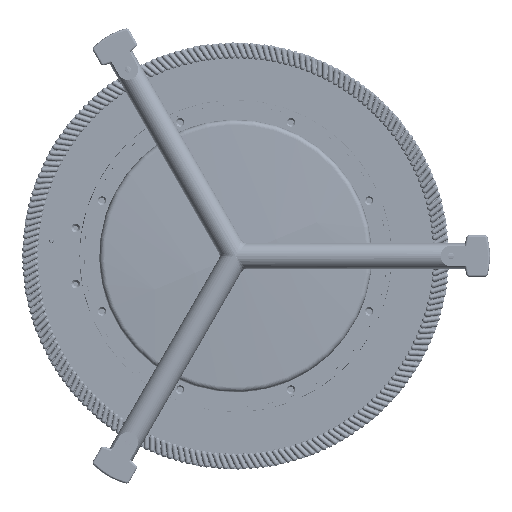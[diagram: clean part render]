
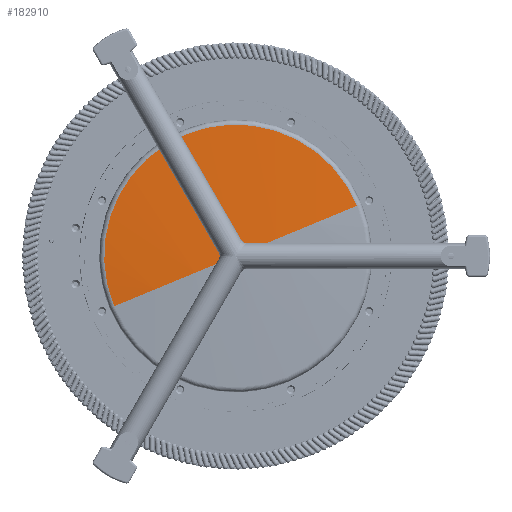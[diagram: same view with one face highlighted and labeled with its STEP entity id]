
A CAD part, front view. The second image highlights one B-rep face of the part: STEP entity #182910.
In plain terms, the highlighted spherical face has radius 1716.79 mm.
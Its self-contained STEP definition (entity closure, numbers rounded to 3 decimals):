
#5697 = VERTEX_POINT ( 'NONE', #24219 ) ;
#24219 = CARTESIAN_POINT ( 'NONE',  ( 0., 53.948, 126.299 ) ) ;
#37618 = FACE_OUTER_BOUND ( 'NONE', #248758, .T. ) ;
#39838 = DIRECTION ( 'NONE',  ( -1., 0., 0. ) ) ;
#55117 = AXIS2_PLACEMENT_3D ( 'NONE', #84285, #39838, #130185 ) ;
#56137 = CARTESIAN_POINT ( 'NONE',  ( 0., 53.948, 0. ) ) ;
#59801 = CIRCLE ( 'NONE', #55117, 1716.79 ) ;
#64271 = CIRCLE ( 'NONE', #177813, 1716.79 ) ;
#84285 = CARTESIAN_POINT ( 'NONE',  ( 0., -1658.19, 0. ) ) ;
#85472 = ORIENTED_EDGE ( 'NONE', *, *, #233452, .F. ) ;
#90005 = CIRCLE ( 'NONE', #260208, 126.299 ) ;
#91958 = ORIENTED_EDGE ( 'NONE', *, *, #284861, .T. ) ;
#100521 = DIRECTION ( 'NONE',  ( 0., 0., -1. ) ) ;
#101354 = DIRECTION ( 'NONE',  ( 1., 0., 0. ) ) ;
#105713 = DIRECTION ( 'NONE',  ( 0., 0., -1. ) ) ;
#110419 = CARTESIAN_POINT ( 'NONE',  ( 0., -1658.19, 0. ) ) ;
#127965 = SPHERICAL_SURFACE ( 'NONE', #254408, 1716.79 ) ;
#130185 = DIRECTION ( 'NONE',  ( 0., 0., 1. ) ) ;
#147269 = CARTESIAN_POINT ( 'NONE',  ( 0., -1658.19, 0. ) ) ;
#153517 = EDGE_CURVE ( 'NONE', #5697, #268004, #90005, .T. ) ;
#159417 = ORIENTED_EDGE ( 'NONE', *, *, #153517, .F. ) ;
#168684 = DIRECTION ( 'NONE',  ( 0., -1., 0. ) ) ;
#168786 = CARTESIAN_POINT ( 'NONE',  ( 0., 53.948, -126.299 ) ) ;
#177813 = AXIS2_PLACEMENT_3D ( 'NONE', #110419, #203726, #291226 ) ;
#182910 = ADVANCED_FACE ( 'NONE', ( #37618 ), #127965, .T. ) ;
#203726 = DIRECTION ( 'NONE',  ( 1., 0., 0. ) ) ;
#209135 = CARTESIAN_POINT ( 'NONE',  ( 0., 58.6, 0. ) ) ;
#233452 = EDGE_CURVE ( 'NONE', #283189, #5697, #64271, .T. ) ;
#248758 = EDGE_LOOP ( 'NONE', ( #85472, #91958, #159417 ) ) ;
#254408 = AXIS2_PLACEMENT_3D ( 'NONE', #147269, #101354, #105713 ) ;
#260208 = AXIS2_PLACEMENT_3D ( 'NONE', #56137, #168684, #100521 ) ;
#268004 = VERTEX_POINT ( 'NONE', #168786 ) ;
#283189 = VERTEX_POINT ( 'NONE', #209135 ) ;
#284861 = EDGE_CURVE ( 'NONE', #283189, #268004, #59801, .T. ) ;
#291226 = DIRECTION ( 'NONE',  ( 0., 0., -1. ) ) ;
